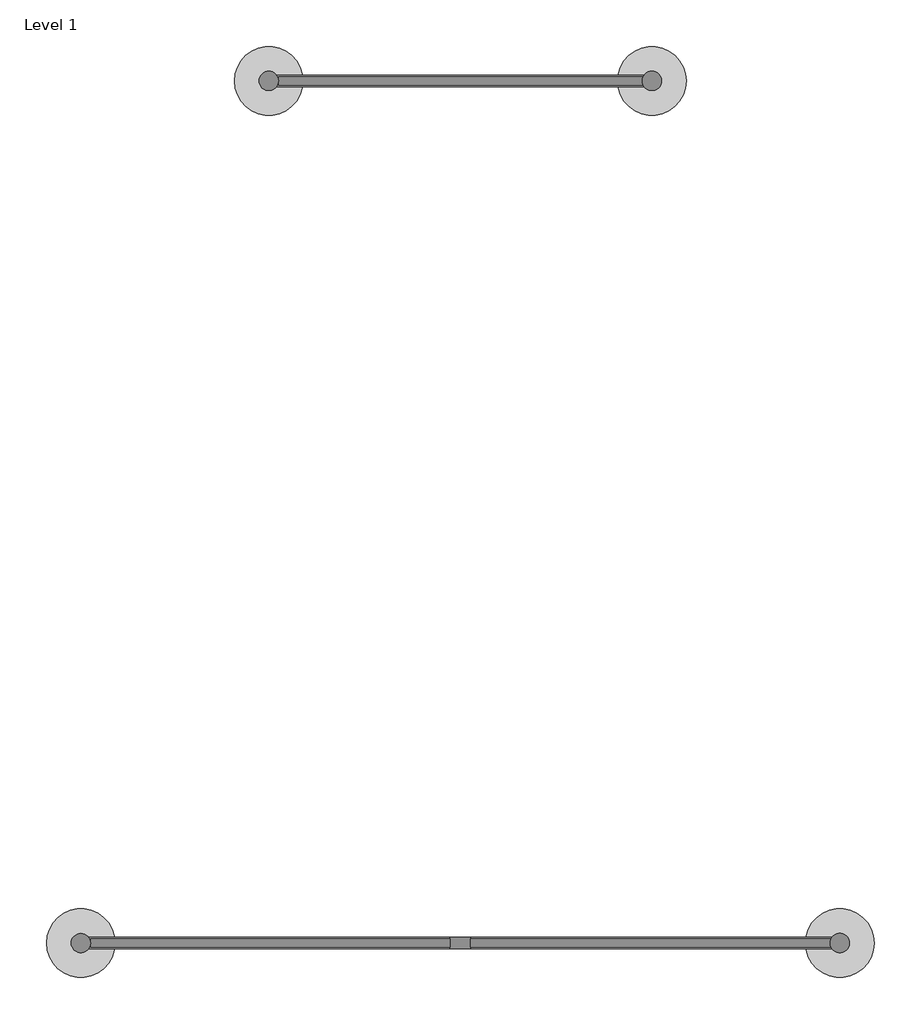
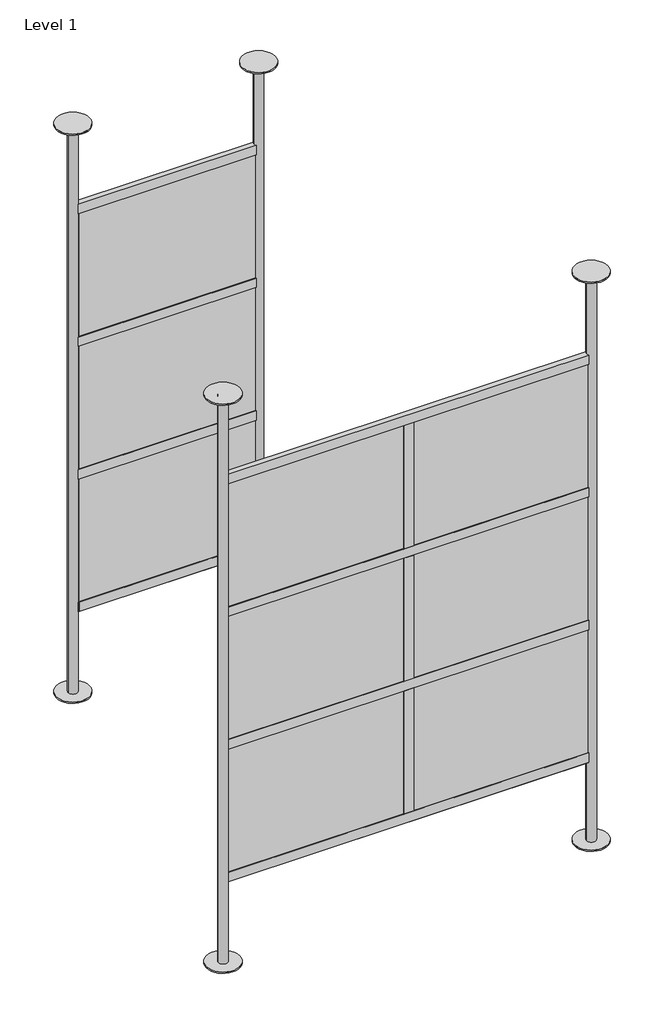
# One storey: 2 furniture elements.
"""IFC4 building model written with IfcOpenShell, lengths in millimetres."""

from ifc_helpers import new_model, si_unit, origin, place, context, project, spatial, transform, mapped, element, save
from components import vertical_1_103afd4f, vertical_2_b19c7503

model = new_model("IFC4")

# Units and contexts
model_context = context("Model", 3, world=origin())
ifc_project = project(units=[si_unit("LENGTHUNIT", "METRE", prefix="MILLI")], contexts=[model_context])

# Site, building, storey
site = spatial("IfcSite", under=ifc_project)
building = spatial("IfcBuilding", under=site)
storey = spatial("IfcBuildingStorey", under=building, Name="Level 1", Elevation=0.0)

# Furniture
placement = place(None, origin())
vertical_1_shape = vertical_1_103afd4f(model_context)
element("IfcFurniture", 1, ObjectType="Loft_Wall-Hover-Vertical : Vertical 1", at=placement, inside=storey, context=model_context, shape_type="MappedRepresentation", body=[
    mapped(vertical_1_shape, transform((7623.2527868, 4785.197807, 0.0), x_axis=(1.0, 0.0, 0.0), y_axis=(0.0, 1.0, 0.0), z_axis=(0.0, 0.0, 1.0))),
])
vertical_2_shape = vertical_2_b19c7503(model_context)
element("IfcFurniture", 2, ObjectType="Loft_Wall-Hover-Vertical : Vertical 2", at=placement, inside=storey, context=model_context, shape_type="MappedRepresentation", body=[
    mapped(vertical_2_shape, transform((7623.2527868, 2871.0674921, 0.0), x_axis=(1.0, 0.0, 0.0), y_axis=(0.0, 1.0, 0.0), z_axis=(0.0, 0.0, 1.0))),
])

save(model, "model.ifc")
